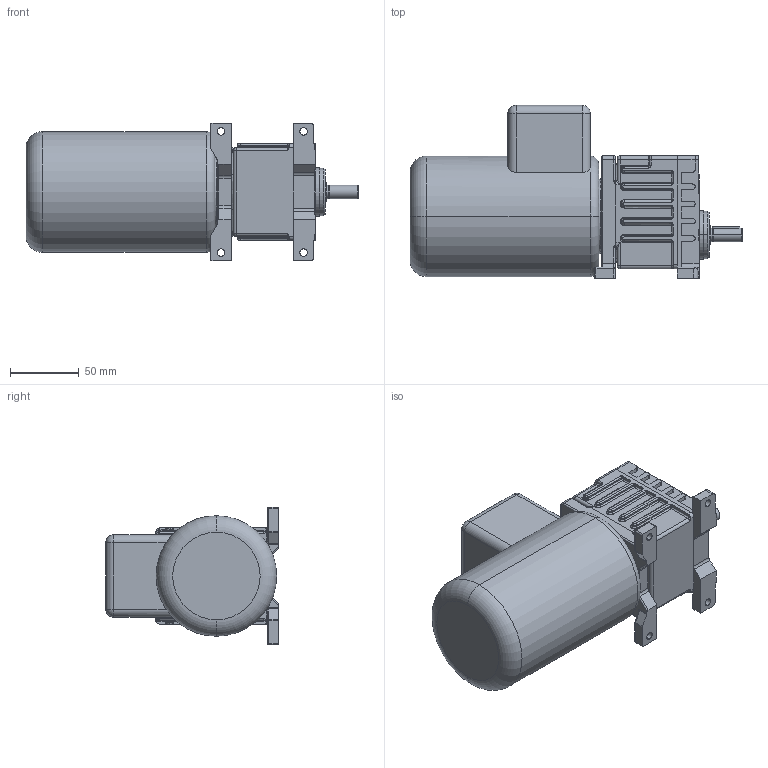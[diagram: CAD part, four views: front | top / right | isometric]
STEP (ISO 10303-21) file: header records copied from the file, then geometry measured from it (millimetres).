
FILE_DESCRIPTION(('OneSpaceDesigner STEP Export'),'2;1');
FILE_NAME('G23_G27_BF_B3_20W_30W_Motor_3D.stp','2007-08-27T10:09:35',(''),(''),'OneSpace Designer STEP processor for AP214 (Solid Model)','OneSpace Modeling 15.00B 25-Jun-2007 (C) CoCreate Software GmbH','');
FILE_SCHEMA(('AUTOMOTIVE_DESIGN { 1 0 10303 214 1 1 1 1 }'));
Products named in the file (1): 001_G23_G27_BF_B3_20W_30W_Motor.1_1
Bounding box: 241 x 125.53 x 100 mm (x, y, z)
Volume: 1360158.5 mm3; surface area: 96047.6 mm2
Topology: 1 solids, 1 shells, 628 faces, 1551 edges, 909 vertices
Faces by surface type: bspline 264, cylinder 152, plane 140, cone 26, torus 25, extrusion 11, sphere 10
Entity records: 46829 total; most frequent: CARTESIAN_POINT 30250, ORIENTED_EDGE 3040, EDGE_CURVE 1520, DIRECTION 1476, VERTEX_POINT 909, EDGE_LOOP 651, COLOUR_RGB 629, FILL_AREA_STYLE_COLOUR 629
